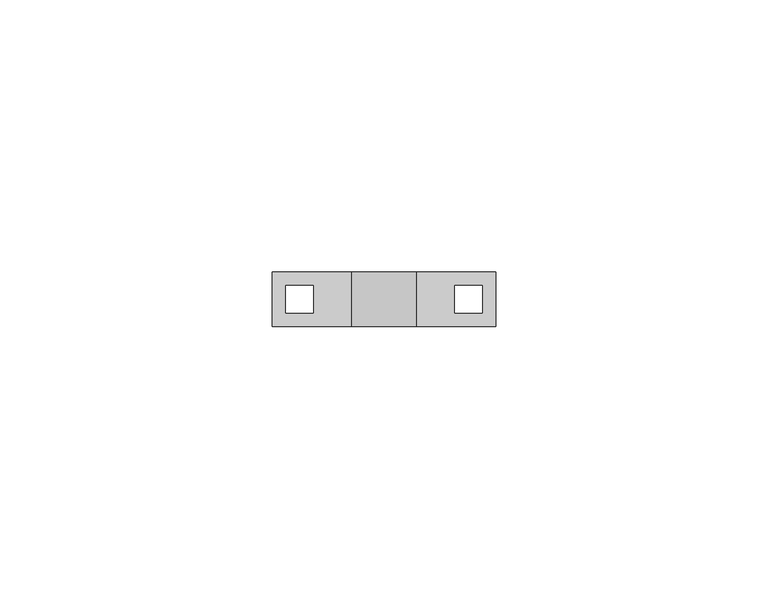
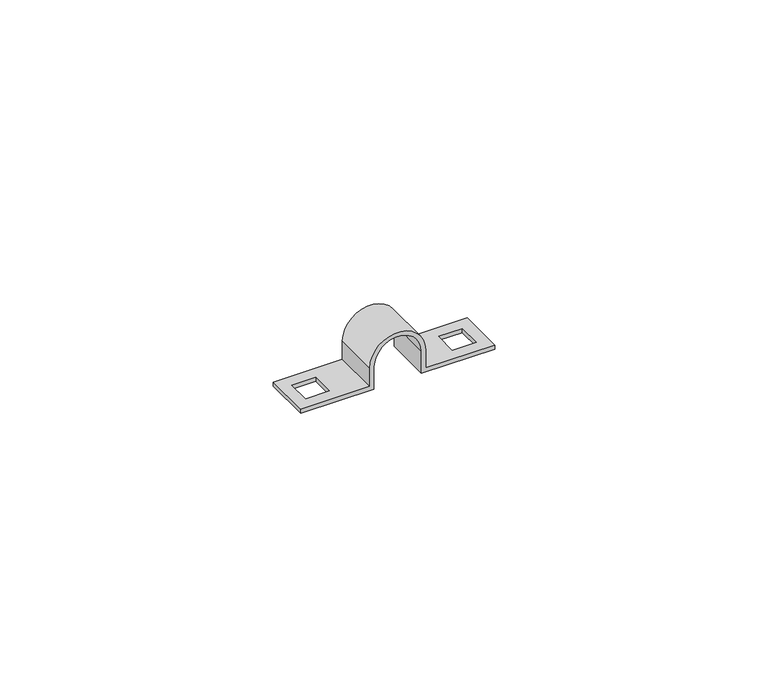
"""IFC4 building model written with IfcOpenShell, lengths in millimetres: cable carrier fitting geometry."""

from ifc_helpers import new_model, si_unit, frame, origin, place, context, project, spatial, polyline, circle_curve, source, transform, mapped, element, save
from ifc_brep_helpers import plane_surface, cylinder_surface, revolved_surface, advanced_brep


def cable_carrier_fitting_fb84c19f(model_context):
    return source(origin(), model_context, "Body", "AdvancedBrep", [
        advanced_brep(
        [(20.5, -5.0, 0.0), (20.5, -5.0, 0.9), (5.9, -5.0, 0.9), (5.9, -5.0, 5.0), (-5.9, -5.0, 5.0), (-5.9, -5.0, 0.9), (-20.5, -5.0, 0.9), (-20.5, -5.0, 0.0), (-5.0, -5.0, 0.0), (-5.0, -5.0, 5.0), (5.0, -5.0, 5.0), (5.0, -5.0, 0.0), (20.5, 5.0, 0.0), (5.0, 5.0, 0.0), (5.0, 5.0, 5.0), (-5.0, 5.0, 5.0), (-5.0, 5.0, 0.0), (-20.5, 5.0, 0.0), (-20.5, 5.0, 0.9), (-5.9, 5.0, 0.9), (-5.9, 5.0, 5.0), (5.9, 5.0, 5.0), (5.9, 5.0, 0.9), (20.5, 5.0, 0.9), (18.0, -2.5, 0.9), (13.0, -2.5, 0.9), (13.0, 2.5, 0.9), (18.0, 2.5, 0.9), (-18.0, 2.5, 0.9), (-13.0, 2.5, 0.9), (-13.0, -2.5, 0.9), (-18.0, -2.5, 0.9), (-13.0, 2.5, 0.0), (-18.0, 2.5, 0.0), (-18.0, -2.5, 0.0), (-13.0, -2.5, 0.0), (13.0, -2.5, 0.0), (18.0, -2.5, 0.0), (18.0, 2.5, 0.0), (13.0, 2.5, 0.0)],
        [
            (0, 1),
            (1, 2),
            (2, 3),
            (3, 4, circle_curve(frame((0.0, -5.0, 5.0), z_axis=(0.0, -1.0, 0.0), x_axis=(1.0, 0.0, 0.0)), 5.9)),
            (4, 5),
            (5, 6),
            (6, 7),
            (7, 8),
            (8, 9),
            (9, 10, circle_curve(frame((0.0, -5.0, 5.0), z_axis=(0.0, 1.0, 0.0), x_axis=(1.0, 0.0, 0.0)), 5.0)),
            (10, 11),
            (11, 0),
            (12, 13),
            (13, 14),
            (14, 15, circle_curve(frame((0.0, 5.0, 5.0), z_axis=(0.0, -1.0, 0.0), x_axis=(1.0, 0.0, 0.0)), 5.0)),
            (15, 16),
            (16, 17),
            (17, 18),
            (18, 19),
            (19, 20),
            (20, 21, circle_curve(frame((0.0, 5.0, 5.0), z_axis=(0.0, 1.0, 0.0), x_axis=(1.0, 0.0, 0.0)), 5.9)),
            (21, 22),
            (22, 23),
            (23, 12),
            (0, 12),
            (23, 1),
            (22, 2),
            (24, 25),
            (25, 26),
            (26, 27),
            (27, 24),
            (21, 3),
            (20, 4),
            (19, 5),
            (18, 6),
            (28, 29),
            (29, 30),
            (30, 31),
            (31, 28),
            (17, 7),
            (16, 8),
            (32, 33),
            (33, 34),
            (34, 35),
            (35, 32),
            (15, 9),
            (14, 10),
            (13, 11),
            (36, 37),
            (37, 38),
            (38, 39),
            (39, 36),
            (32, 29),
            (28, 33),
            (31, 34),
            (30, 35),
            (36, 25),
            (24, 37),
            (27, 38),
            (26, 39),
        ],
        [
            plane_surface(frame((20.5, -5.0, 0.9), z_axis=(0.0, -1.0, 0.0), x_axis=(0.0, 0.0, 1.0))),
            plane_surface(frame((20.5, 5.0, 0.9), z_axis=(0.0, 1.0, 0.0), x_axis=(0.0, 0.0, -1.0))),
            plane_surface(frame((20.5, -5.0, 0.0), z_axis=(1.0, 0.0, 0.0), x_axis=(0.0, 1.0, 0.0))),
            plane_surface(frame((20.5, -5.0, 0.9), z_axis=(0.0, 0.0, 1.0), x_axis=(0.0, 1.0, 0.0))),
            plane_surface(frame((5.9, -5.0, 0.9), z_axis=(1.0, 0.0, 0.0), x_axis=(0.0, 1.0, 0.0))),
            cylinder_surface(frame((0.0, 5.0, 5.0), z_axis=(0.0, -1.0, 0.0), x_axis=(1.0, 0.0, 0.0)), 5.9),
            plane_surface(frame((-5.9, -5.0, 5.0), z_axis=(-1.0, 0.0, 0.0), x_axis=(0.0, 1.0, 0.0))),
            plane_surface(frame((-5.9, -5.0, 0.9), z_axis=(0.0, 0.0, 1.0), x_axis=(0.0, 1.0, 0.0))),
            plane_surface(frame((-20.5, -5.0, 0.9), z_axis=(-1.0, 0.0, 0.0), x_axis=(0.0, 1.0, 0.0))),
            plane_surface(frame((-20.5, -5.0, 0.0), z_axis=(0.0, 0.0, -1.0), x_axis=(0.0, 1.0, 0.0))),
            plane_surface(frame((-5.0, -5.0, 0.0), z_axis=(1.0, 0.0, 0.0), x_axis=(0.0, 1.0, 0.0))),
            revolved_surface(polyline([(5.0, 5.0, 5.0), (5.0, -5.0, 5.0)]), (0.0, 5.0, 5.0), (0.0, 1.0, 0.0)),
            plane_surface(frame((5.0, -5.0, 5.0), z_axis=(-1.0, 0.0, 0.0), x_axis=(0.0, 1.0, 0.0))),
            plane_surface(frame((5.0, -5.0, 0.0), z_axis=(0.0, 0.0, -1.0), x_axis=(0.0, 1.0, 0.0))),
            plane_surface(frame((-13.0, 2.5, 21.959409), z_axis=(0.0, -1.0, 0.0), x_axis=(0.0, 0.0, -1.0))),
            plane_surface(frame((-18.0, 2.5, 21.959409), z_axis=(1.0, 0.0, 0.0), x_axis=(0.0, 0.0, -1.0))),
            plane_surface(frame((-18.0, -2.5, 21.959409), z_axis=(0.0, 1.0, 0.0), x_axis=(0.0, 0.0, -1.0))),
            plane_surface(frame((-13.0, -2.5, 21.959409), z_axis=(-1.0, 0.0, 0.0), x_axis=(0.0, 0.0, -1.0))),
            plane_surface(frame((13.0, -2.5, 21.959409), z_axis=(0.0, 1.0, 0.0), x_axis=(0.0, 0.0, -1.0))),
            plane_surface(frame((18.0, -2.5, 21.959409), z_axis=(-1.0, 0.0, 0.0), x_axis=(0.0, 0.0, -1.0))),
            plane_surface(frame((18.0, 2.5, 21.959409), z_axis=(0.0, -1.0, 0.0), x_axis=(0.0, 0.0, -1.0))),
            plane_surface(frame((13.0, 2.5, 21.959409), z_axis=(1.0, 0.0, 0.0), x_axis=(0.0, 0.0, -1.0))),
        ],
        [
            (0, [[1, 2, 3, 4, 5, 6, 7, 8, 9, 10, 11, 12]]),
            (1, [[13, 14, 15, 16, 17, 18, 19, 20, 21, 22, 23, 24]]),
            (2, [[-1, 25, -24, 26]]),
            (3, [[-2, -26, -23, 27], [28, 29, 30, 31]]),
            (4, [[-3, -27, -22, 32]]),
            (5, [[-4, -32, -21, 33]]),
            (6, [[-5, -33, -20, 34]]),
            (7, [[-6, -34, -19, 35], [36, 37, 38, 39]]),
            (8, [[-7, -35, -18, 40]]),
            (9, [[-8, -40, -17, 41], [42, 43, 44, 45]]),
            (10, [[-9, -41, -16, 46]]),
            (11, [[-10, -46, -15, 47]]),
            (12, [[-11, -47, -14, 48]]),
            (13, [[-12, -48, -13, -25], [49, 50, 51, 52]]),
            (14, [[53, -36, 54, -42]]),
            (15, [[-54, -39, 55, -43]]),
            (16, [[-55, -38, 56, -44]]),
            (17, [[-53, -45, -56, -37]]),
            (18, [[57, -28, 58, -49]]),
            (19, [[-58, -31, 59, -50]]),
            (20, [[-59, -30, 60, -51]]),
            (21, [[-57, -52, -60, -29]]),
        ],
    ),
    ])


if __name__ == "__main__":
    model = new_model("IFC4")
    model_context = context("Model", 3, world=origin())
    ifc_project = project(units=[si_unit("LENGTHUNIT", "METRE", prefix="MILLI")], contexts=[model_context])
    site = spatial("IfcSite", under=ifc_project)
    building = spatial("IfcBuilding", under=site)
    placement = place(None, origin())
    cable_carrier_fitting_shape = cable_carrier_fitting_fb84c19f(model_context)
    element("IfcCableCarrierFitting", 1, at=placement, inside=building, context=model_context, shape_type="MappedRepresentation", body=[
        mapped(cable_carrier_fitting_shape, transform((0.0, 0.0, 0.0), x_axis=(1.0, 0.0, 0.0), y_axis=(0.0, 1.0, 0.0), z_axis=(0.0, 0.0, 1.0))),
    ])
    save(model, "model.ifc")
